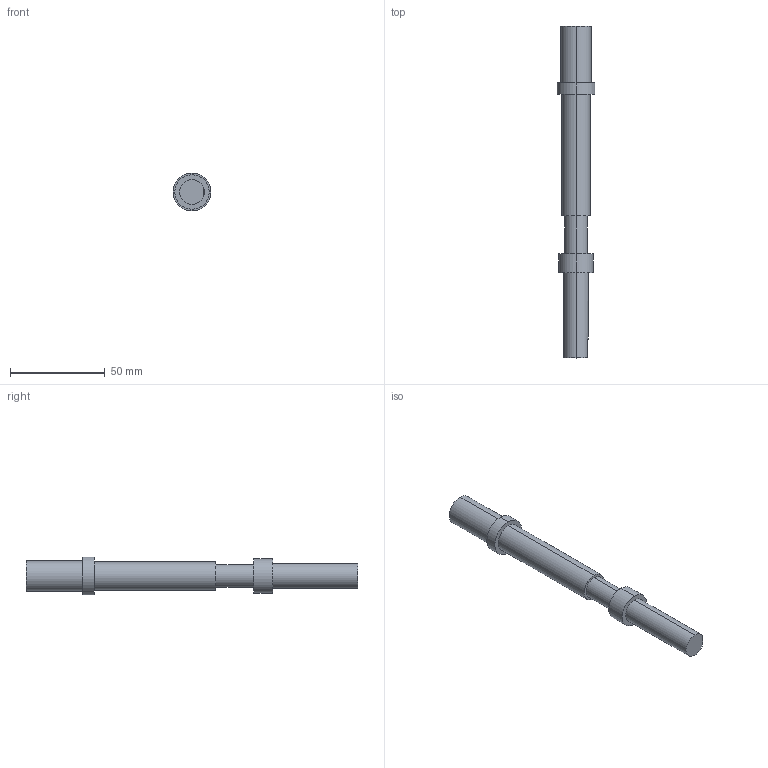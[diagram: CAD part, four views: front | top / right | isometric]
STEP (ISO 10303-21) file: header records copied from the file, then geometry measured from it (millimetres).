
FILE_DESCRIPTION (( 'STEP AP214' ), '1' );
FILE_NAME ('ee124175.STEP', '2017-04-06T08:51:07', ( '' ), ( '' ), 'SwSTEP 2.0', 'SolidWorks 2017', '' );
FILE_SCHEMA (( 'AUTOMOTIVE_DESIGN' ));
Length unit declared in the file: millimetre
Products named in the file (1): ee124175
Bounding box: 20 x 175 x 20 mm (x, y, z)
Volume: 30046.2 mm3; surface area: 8985.6 mm2
Topology: 1 solids, 1 shells, 21 faces, 42 edges, 28 vertices
Faces by surface type: cylinder 12, plane 9
Entity records: 596 total; most frequent: DIRECTION 112, CARTESIAN_POINT 92, ORIENTED_EDGE 84, AXIS2_PLACEMENT_3D 48, EDGE_CURVE 42, VERTEX_POINT 28, CIRCLE 26, EDGE_LOOP 26
